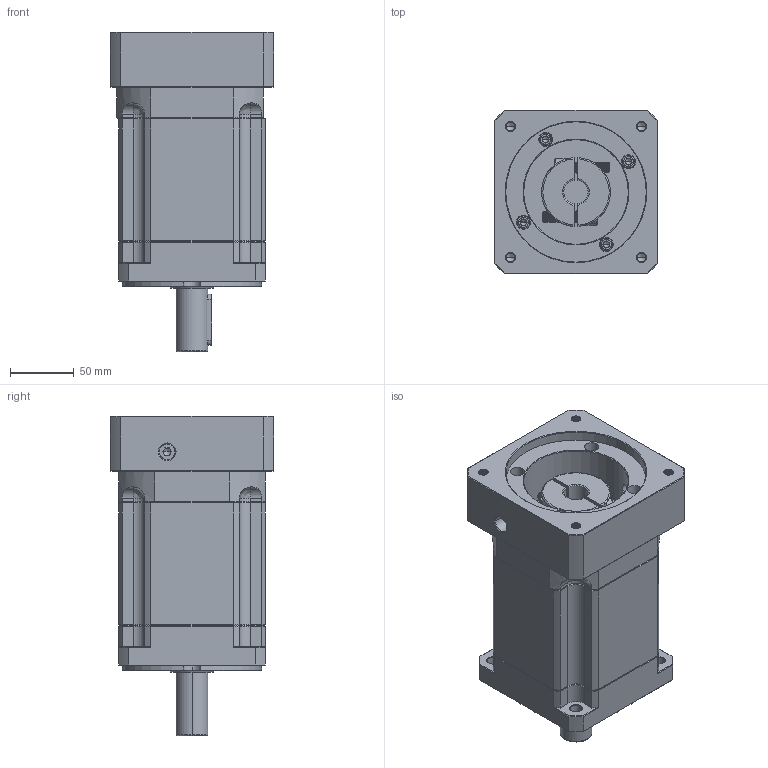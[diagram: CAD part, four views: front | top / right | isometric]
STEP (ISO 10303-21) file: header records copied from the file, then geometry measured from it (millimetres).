
FILE_DESCRIPTION (( 'STEP AP214' ), '1' );
FILE_NAME ('ZB115A-D25-L3-19-110-145-M8.step', '2023-03-02T08:58:08', ( '' ), ( 'Microsoft' ), 'SwSTEP 2.0', 'SolidWorks 2016', '' );
FILE_SCHEMA (( 'AUTOMOTIVE_DESIGN' ));
Length unit declared in the file: millimetre
Products named in the file (1): ZB115A-D25-L3-19-110-145-M8
Bounding box: 128 x 128 x 250.5 mm (x, y, z)
Volume: 2272624.4 mm3; surface area: 202172.8 mm2
Topology: 6 solids, 6 shells, 2113 faces, 5462 edges, 3443 vertices
Faces by surface type: plane 963, cylinder 439, cone 366, bspline 325, torus 20
Entity records: 113062 total; most frequent: CARTESIAN_POINT 41188, ORIENTED_EDGE 10856, DIRECTION 8901, EDGE_CURVE 5428, VERTEX_POINT 3443, LINE 3371, VECTOR 3371, AXIS2_PLACEMENT_3D 2765
